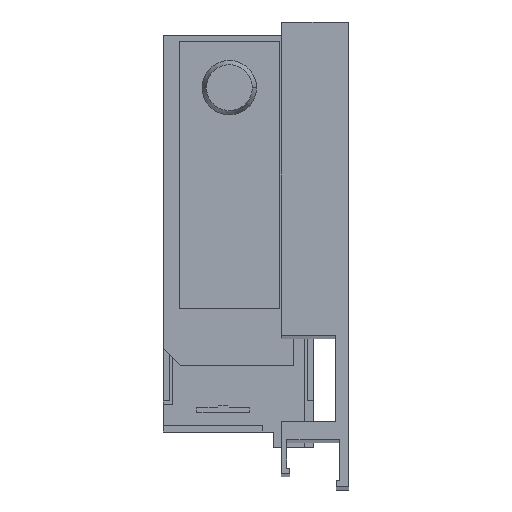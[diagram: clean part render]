
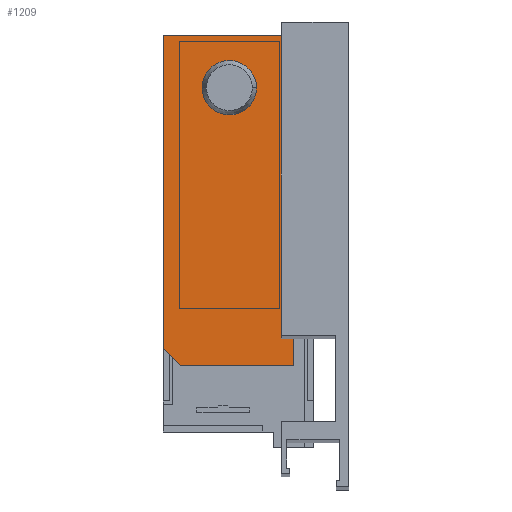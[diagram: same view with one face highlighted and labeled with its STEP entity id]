
A CAD part, top view. The second image highlights one B-rep face of the part: STEP entity #1209.
In plain terms, the highlighted planar face has unit normal (0, 0, 1).
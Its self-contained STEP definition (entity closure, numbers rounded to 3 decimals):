
#5 = DIRECTION ( 'NONE',  ( 0.707, -0.707, 0. ) ) ;
#49 = ORIENTED_EDGE ( 'NONE', *, *, #619, .T. ) ;
#65 = VECTOR ( 'NONE', #888, 1000. ) ;
#201 = LINE ( 'NONE', #2719, #65 ) ;
#213 = VERTEX_POINT ( 'NONE', #667 ) ;
#223 = VERTEX_POINT ( 'NONE', #344 ) ;
#266 = VERTEX_POINT ( 'NONE', #1591 ) ;
#303 = CARTESIAN_POINT ( 'NONE',  ( -8.1, -5.2, -340. ) ) ;
#344 = CARTESIAN_POINT ( 'NONE',  ( -8.1, 0., -340. ) ) ;
#346 = CARTESIAN_POINT ( 'NONE',  ( -29.75, -5.2, -340. ) ) ;
#389 = CARTESIAN_POINT ( 'NONE',  ( -15.2, 48., -340. ) ) ;
#401 = EDGE_LOOP ( 'NONE', ( #1066, #49, #905, #631, #1085, #2090, #1959 ) ) ;
#494 = VERTEX_POINT ( 'NONE', #303 ) ;
#497 = CARTESIAN_POINT ( 'NONE',  ( -20.4, 48., -340. ) ) ;
#531 = EDGE_CURVE ( 'NONE', #1574, #1214, #985, .T. ) ;
#592 = EDGE_CURVE ( 'NONE', #2648, #266, #2707, .T. ) ;
#619 = EDGE_CURVE ( 'NONE', #223, #2828, #1257, .T. ) ;
#631 = ORIENTED_EDGE ( 'NONE', *, *, #592, .T. ) ;
#661 = ORIENTED_EDGE ( 'NONE', *, *, #531, .T. ) ;
#667 = CARTESIAN_POINT ( 'NONE',  ( -33.1, -1.85, -340. ) ) ;
#676 = CARTESIAN_POINT ( 'NONE',  ( -33.1, 58., -340. ) ) ;
#866 = VECTOR ( 'NONE', #5, 1000. ) ;
#878 = FACE_OUTER_BOUND ( 'NONE', #401, .T. ) ;
#888 = DIRECTION ( 'NONE',  ( 0., 1., 0. ) ) ;
#905 = ORIENTED_EDGE ( 'NONE', *, *, #1424, .T. ) ;
#912 = EDGE_CURVE ( 'NONE', #1214, #1574, #2351, .T. ) ;
#917 = EDGE_CURVE ( 'NONE', #494, #223, #201, .T. ) ;
#934 = DIRECTION ( 'NONE',  ( 0., -1., 0. ) ) ;
#965 = DIRECTION ( 'NONE',  ( 0., 0., -1. ) ) ;
#985 = CIRCLE ( 'NONE', #1727, 5.2 ) ;
#986 = AXIS2_PLACEMENT_3D ( 'NONE', #3174, #2870, #2655 ) ;
#1052 = EDGE_CURVE ( 'NONE', #213, #2607, #1126, .T. ) ;
#1066 = ORIENTED_EDGE ( 'NONE', *, *, #917, .T. ) ;
#1072 = CARTESIAN_POINT ( 'NONE',  ( -29.75, -5.2, -340. ) ) ;
#1085 = ORIENTED_EDGE ( 'NONE', *, *, #2947, .T. ) ;
#1126 = LINE ( 'NONE', #1461, #866 ) ;
#1171 = CARTESIAN_POINT ( 'NONE',  ( -10.5, 59.9, -340. ) ) ;
#1209 = ADVANCED_FACE ( 'NONE', ( #878, #2306 ), #2374, .T. ) ;
#1214 = VERTEX_POINT ( 'NONE', #389 ) ;
#1242 = EDGE_CURVE ( 'NONE', #2607, #494, #3141, .T. ) ;
#1257 = LINE ( 'NONE', #2130, #2977 ) ;
#1383 = DIRECTION ( 'NONE',  ( -1., 0., 0. ) ) ;
#1424 = EDGE_CURVE ( 'NONE', #2828, #2648, #2698, .T. ) ;
#1437 = DIRECTION ( 'NONE',  ( 0., 0., -1. ) ) ;
#1461 = CARTESIAN_POINT ( 'NONE',  ( -33.1, -1.85, -340. ) ) ;
#1483 = DIRECTION ( 'NONE',  ( 0., 1., 0. ) ) ;
#1574 = VERTEX_POINT ( 'NONE', #1828 ) ;
#1591 = CARTESIAN_POINT ( 'NONE',  ( -33.1, 58., -340. ) ) ;
#1655 = CARTESIAN_POINT ( 'NONE',  ( -5.45, 58., -340. ) ) ;
#1665 = DIRECTION ( 'NONE',  ( 1., 0., 0. ) ) ;
#1727 = AXIS2_PLACEMENT_3D ( 'NONE', #497, #1437, #1973 ) ;
#1752 = AXIS2_PLACEMENT_3D ( 'NONE', #1914, #965, #1665 ) ;
#1828 = CARTESIAN_POINT ( 'NONE',  ( -25.6, 48., -340. ) ) ;
#1908 = DIRECTION ( 'NONE',  ( -1., 0., 0. ) ) ;
#1914 = CARTESIAN_POINT ( 'NONE',  ( -20.4, 48., -340. ) ) ;
#1926 = ORIENTED_EDGE ( 'NONE', *, *, #912, .T. ) ;
#1959 = ORIENTED_EDGE ( 'NONE', *, *, #1242, .T. ) ;
#1973 = DIRECTION ( 'NONE',  ( 1., 0., 0. ) ) ;
#1981 = VECTOR ( 'NONE', #934, 1000. ) ;
#2090 = ORIENTED_EDGE ( 'NONE', *, *, #1052, .T. ) ;
#2130 = CARTESIAN_POINT ( 'NONE',  ( 1.7, 0., -340. ) ) ;
#2172 = VECTOR ( 'NONE', #1483, 1000. ) ;
#2234 = LINE ( 'NONE', #676, #1981 ) ;
#2306 = FACE_BOUND ( 'NONE', #3005, .T. ) ;
#2351 = CIRCLE ( 'NONE', #1752, 5.2 ) ;
#2363 = CARTESIAN_POINT ( 'NONE',  ( -10.5, 0., -340. ) ) ;
#2374 = PLANE ( 'NONE',  #986 ) ;
#2430 = VECTOR ( 'NONE', #2568, 1000. ) ;
#2568 = DIRECTION ( 'NONE',  ( 1., 0., 0. ) ) ;
#2607 = VERTEX_POINT ( 'NONE', #1072 ) ;
#2648 = VERTEX_POINT ( 'NONE', #3029 ) ;
#2655 = DIRECTION ( 'NONE',  ( 1., 0., 0. ) ) ;
#2698 = LINE ( 'NONE', #1171, #2172 ) ;
#2707 = LINE ( 'NONE', #1655, #3121 ) ;
#2719 = CARTESIAN_POINT ( 'NONE',  ( -8.1, -5.2, -340. ) ) ;
#2828 = VERTEX_POINT ( 'NONE', #2363 ) ;
#2870 = DIRECTION ( 'NONE',  ( 0., 0., 1. ) ) ;
#2947 = EDGE_CURVE ( 'NONE', #266, #213, #2234, .T. ) ;
#2977 = VECTOR ( 'NONE', #1383, 1000. ) ;
#3005 = EDGE_LOOP ( 'NONE', ( #661, #1926 ) ) ;
#3029 = CARTESIAN_POINT ( 'NONE',  ( -10.5, 58., -340. ) ) ;
#3121 = VECTOR ( 'NONE', #1908, 1000. ) ;
#3141 = LINE ( 'NONE', #346, #2430 ) ;
#3174 = CARTESIAN_POINT ( 'NONE',  ( 0., 0., -340. ) ) ;
